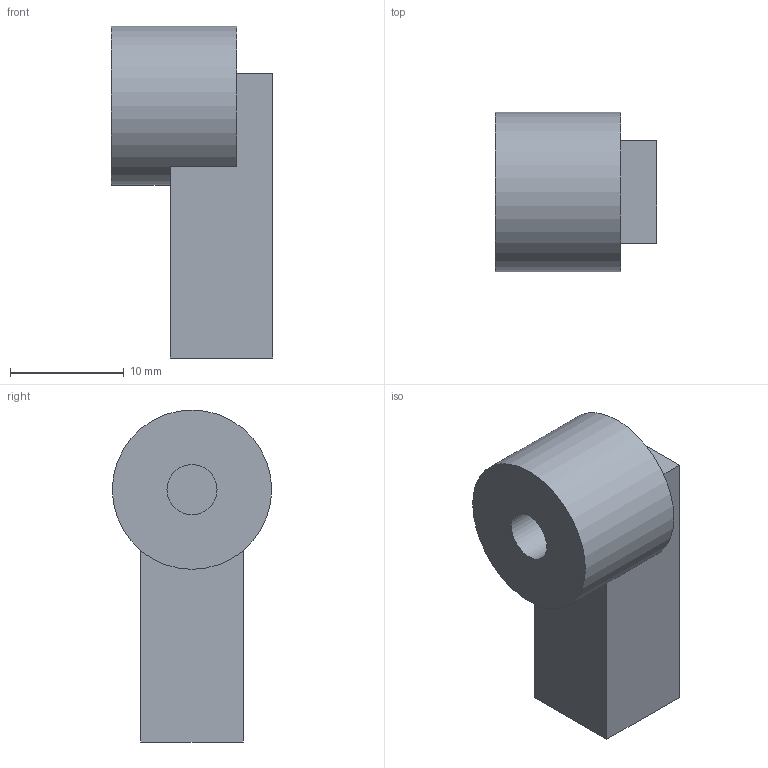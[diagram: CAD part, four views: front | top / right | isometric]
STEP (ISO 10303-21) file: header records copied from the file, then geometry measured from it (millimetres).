
FILE_DESCRIPTION(('FreeCAD Model'),'2;1');
FILE_NAME('Open CASCADE Shape Model','2026-11-20T08:25:38',('FreeCAD'),( 'FreeCAD'),'Open CASCADE STEP processor 7.8','FreeCAD','Unknown');
FILE_SCHEMA(('AUTOMOTIVE_DESIGN { 1 0 10303 214 1 1 1 1 }'));
Length unit declared in the file: millimetre
Products named in the file (1): Open CASCADE STEP translator 7.8 33
Bounding box: 14.18 x 14 x 29.18 mm (x, y, z)
Volume: 3047.9 mm3; surface area: 1647.3 mm2
Topology: 1 solids, 1 shells, 11 faces, 24 edges, 16 vertices
Faces by surface type: plane 9, cylinder 2
Full cylindrical faces by diameter (mm): 4.4 x1, 14 x1
Entity records: 314 total; most frequent: DIRECTION 54, CARTESIAN_POINT 52, ORIENTED_EDGE 48, EDGE_CURVE 24, AXIS2_PLACEMENT_3D 18, LINE 18, VECTOR 18, VERTEX_POINT 16
